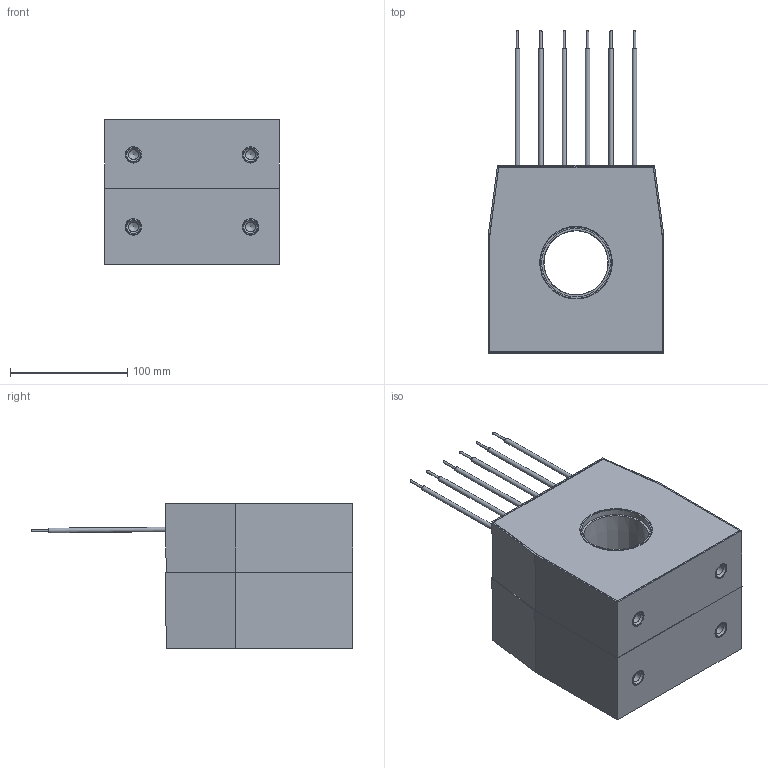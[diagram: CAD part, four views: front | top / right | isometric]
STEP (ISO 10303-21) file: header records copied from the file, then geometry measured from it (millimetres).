
FILE_DESCRIPTION(('STEP AP203'), '1');
FILE_NAME('ÒØÏ-ÍÒÇ-0,66-72Ñ (55 ìì, 2-é ãàáàðèò)', '2025-08-27T09:38:57', ('UNSPECIFIED'), ('UNSPECIFIED'), 'ASCON STEP Converter 1.3', 'ASCON Math Kernel', '');
FILE_SCHEMA(('CONFIG_CONTROL_DESIGN'));
Length unit declared in the file: millimetre
Assembly tree (15 placements, depth 2):
  (unnamed)
    (unnamed)
    (unnamed)
    (unnamed)  x2
    (unnamed)  x4
    (unnamed)
    (unnamed)  x6
Bounding box: 150 x 274.82 x 123.5 mm (x, y, z)
Volume: 493519.9 mm3; surface area: 310513 mm2
Topology: 15 solids, 15 shells, 203 faces, 421 edges, 271 vertices
Faces by surface type: plane 118, cylinder 55, cone 22, torus 8
Full cylindrical faces by diameter (mm): 2 x6, 3.9 x6, 4 x5, 6 x4, 8.376 x4, 14 x8, 17 x4, 55 x1, 55.05 x1, 58.599 x4, 58.6 x1, 61 x1, 65.05 x1, 68.6 x1
Entity records: 5389 total; most frequent: CARTESIAN_POINT 677, DIRECTION 644, ORIENTED_EDGE 558, EDGE_CURVE 279, AXIS2_PLACEMENT_3D 222, EDGE_LOOP 209, VERTEX_POINT 206, LINE 200
